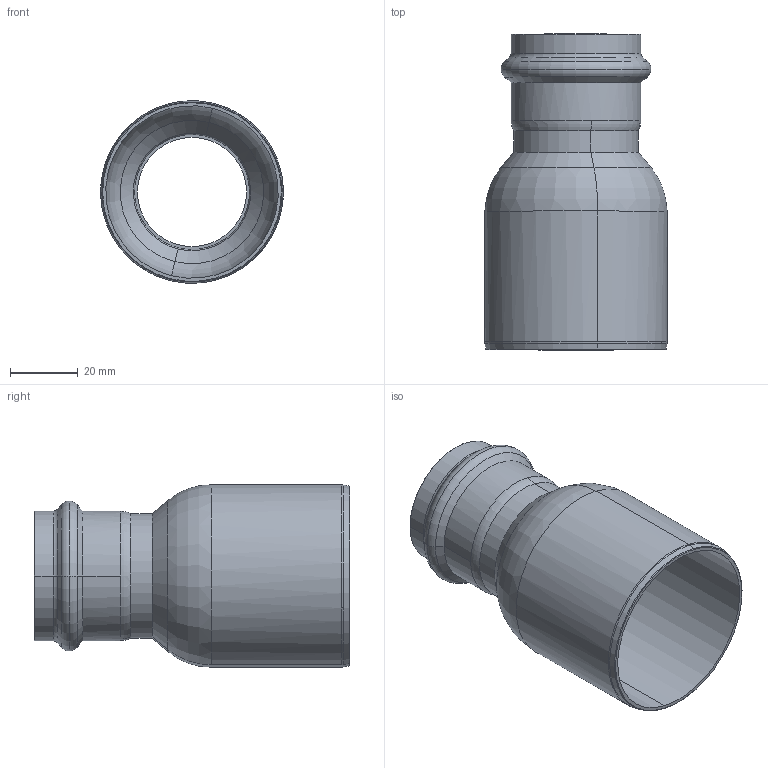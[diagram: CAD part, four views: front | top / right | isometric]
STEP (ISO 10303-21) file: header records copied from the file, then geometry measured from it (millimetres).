
FILE_DESCRIPTION(('CoCreate Modeling STEP Export'),'2;1');
FILE_NAME('8243VW5435.stp','2013-03-05T 9:48:56',(''),(''),'CoCreate Modeling STEP processor for AP214 (Solid Model)','CoCreate Modeling 17.00A 17-Jun-2010 (C) Parametric Technology GmbH','');
FILE_SCHEMA(('AUTOMOTIVE_DESIGN { 1 0 10303 214 1 1 1 1 }'));
Length unit declared in the file: millimetre
Products named in the file (1): 8243VW5435
Bounding box: 53.98 x 93.33 x 53.88 mm (x, y, z)
Volume: 22584.5 mm3; surface area: 28354.1 mm2
Topology: 1 solids, 1 shells, 62 faces, 141 edges, 83 vertices
Faces by surface type: torus 22, cone 18, cylinder 18, plane 4
Entity records: 1392 total; most frequent: ORIENTED_EDGE 282, DIRECTION 212, CARTESIAN_POINT 207, EDGE_CURVE 141, AXIS2_PLACEMENT_3D 88, VERTEX_POINT 83, EDGE_LOOP 66, FACE_OUTER_BOUND 62
